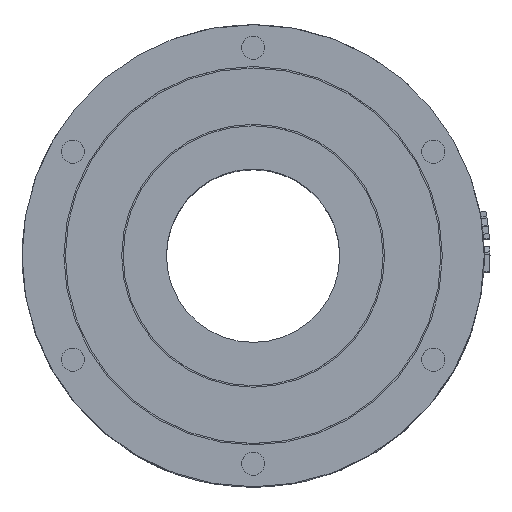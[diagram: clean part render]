
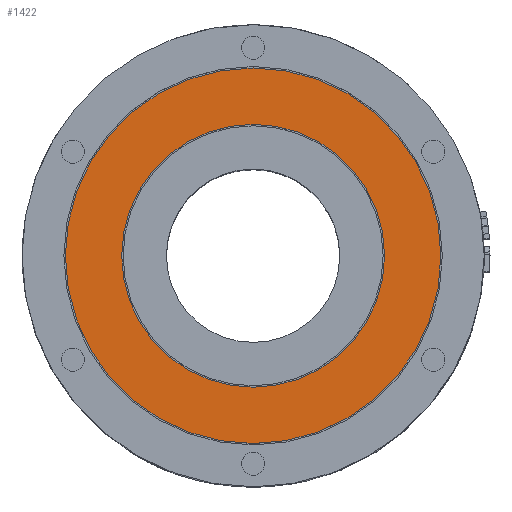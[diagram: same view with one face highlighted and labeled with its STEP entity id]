
A CAD part, top view. The second image highlights one B-rep face of the part: STEP entity #1422.
In plain terms, the highlighted planar face has unit normal (0, 0, 1).
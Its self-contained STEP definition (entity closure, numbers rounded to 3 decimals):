
#1422=ADVANCED_FACE('',(#2710,#2711),#1671,.F.);
#1671=PLANE('',#7108);
#2710=FACE_BOUND('',#3167,.T.);
#2711=FACE_BOUND('',#3168,.T.);
#3167=EDGE_LOOP('',(#4680));
#3168=EDGE_LOOP('',(#4681));
#4680=ORIENTED_EDGE('',*,*,#6649,.F.);
#4681=ORIENTED_EDGE('',*,*,#6648,.T.);
#5755=VERTEX_POINT('',#15166);
#5756=VERTEX_POINT('',#15169);
#6648=EDGE_CURVE('',#5755,#5755,#6846,.T.);
#6649=EDGE_CURVE('',#5756,#5756,#6847,.T.);
#6846=CIRCLE('',#7105,32.5);
#6847=CIRCLE('',#7107,22.75);
#7105=AXIS2_PLACEMENT_3D('',#15165,#8158,#8159);
#7107=AXIS2_PLACEMENT_3D('',#15168,#8162,#8163);
#7108=AXIS2_PLACEMENT_3D('',#15170,#8164,#8165);
#8158=DIRECTION('',(0.,0.,1.));
#8159=DIRECTION('',(1.,0.,0.));
#8162=DIRECTION('',(0.,0.,1.));
#8163=DIRECTION('',(-1.,0.,0.));
#8164=DIRECTION('',(0.,0.,-1.));
#8165=DIRECTION('',(-1.,0.,0.));
#15165=CARTESIAN_POINT('',(0.,0.,72.));
#15166=CARTESIAN_POINT('',(32.5,0.,72.));
#15168=CARTESIAN_POINT('',(0.,0.,72.));
#15169=CARTESIAN_POINT('',(-22.75,0.,72.));
#15170=CARTESIAN_POINT('',(0.,0.,72.));
